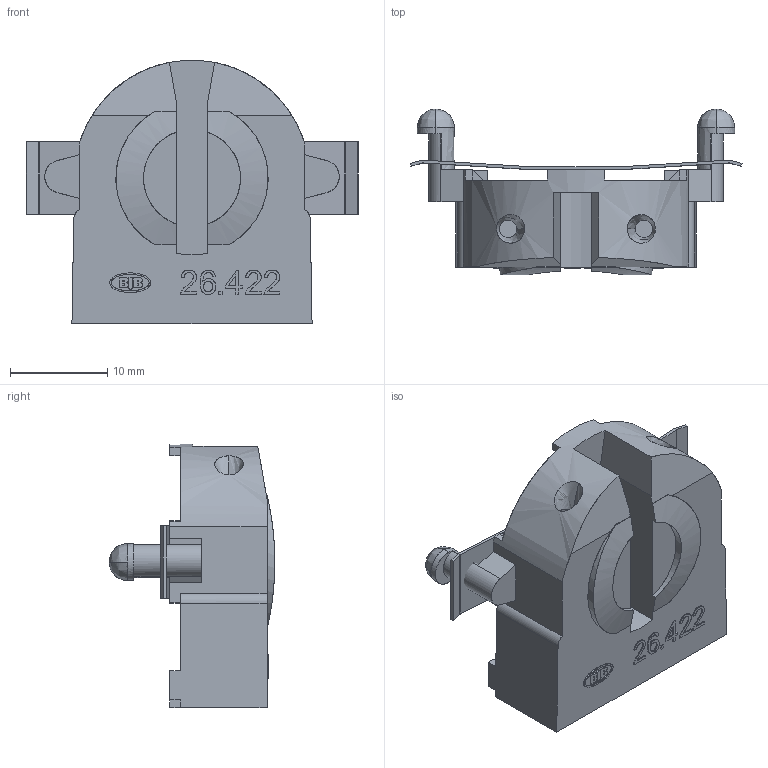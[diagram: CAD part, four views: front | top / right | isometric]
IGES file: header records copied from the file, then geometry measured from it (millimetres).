
Start section: Comment
Global section: file name: 00B-22F-04.igs; native system:  By Spatial Corp.; preprocessor: XPlus GENERIC/IGES 3.0; author: Author; organization: Title; date: 20070620.071346; units: millimetre
Bounding box: 34.22 x 17.07 x 27.12 mm (x, y, z)
Surface area: 3511.4 mm2 (no closed solid volume)
Topology: 0 solids, 0 shells, 312 faces, 1738 edges, 1730 vertices
Faces by surface type: bspline 312
